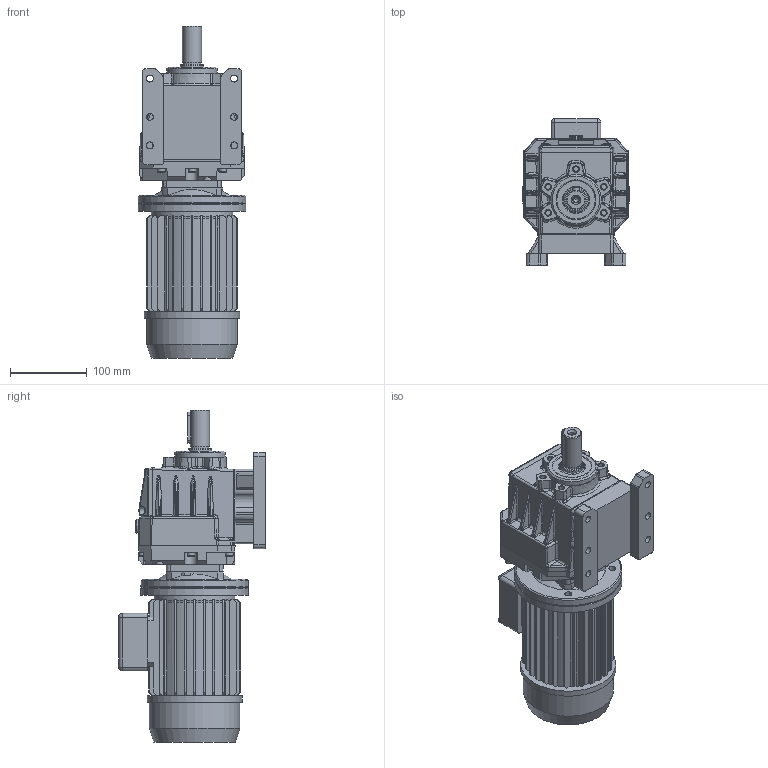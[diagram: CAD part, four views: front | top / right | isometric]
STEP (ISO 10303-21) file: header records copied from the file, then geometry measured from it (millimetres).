
FILE_DESCRIPTION( ( 'Unknown' ), '1' );
FILE_NAME( 'E:/services/configuratordownloads/customers/HYDROMEC/COASSIALI/download/65AD6981C33EAC51776E3E47DA55210/STEP/65AD6981C33EAC51776E3E47DA55210.3d.stp', 'Unknown', ( 'Unknown' ), ( 'Unknown' ), 'PSStep 10.1', 'Unknown', ' ' );
FILE_SCHEMA( ( 'AUTOMOTIVE_DESIGN { 1 0 10303 214 1 1 1 1 }' ) );
Length unit declared in the file: millimetre
Products named in the file (1): C418800
Bounding box: 140 x 190.97 x 432.5 mm (x, y, z)
Volume: 4477114.8 mm3; surface area: 359386.1 mm2
Topology: 1 solids, 19 shells, 1327 faces, 3382 edges, 2147 vertices
Faces by surface type: plane 750, cylinder 281, bspline 164, cone 99, torus 22, sphere 6, extrusion 5
Full cylindrical faces by diameter (mm): 6.5 x1, 6.647 x10, 7 x8, 8 x4, 8.376 x4, 8.4 x1, 9 x10, 9.9 x8, 10 x4, 11 x6, 13.5 x1, 18 x1, 19 x1, 22 x1, 24.6 x1, 25 x1, 30 x1, 35 x1, 35.5 x1, 47 x2, 66 x1, 95 x1, 105 x1, 105.986 x1, 118 x1, 124 x1, 140 x1
Entity records: 59721 total; most frequent: CARTESIAN_POINT 18952, ORIENTED_EDGE 6340, DIRECTION 5803, EDGE_CURVE 3170, VERTEX_POINT 2091, AXIS2_PLACEMENT_3D 1979, VECTOR 1845, LINE 1840
